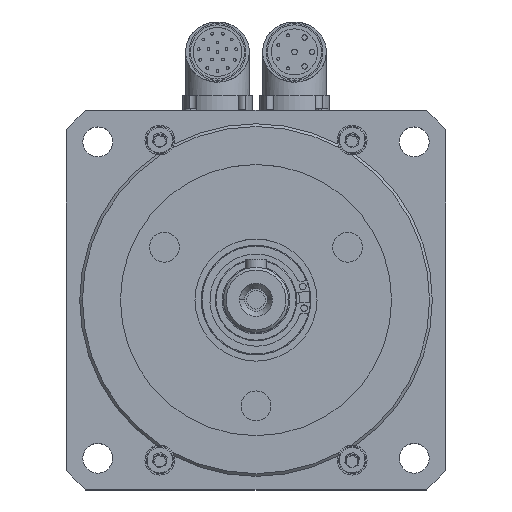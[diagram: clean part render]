
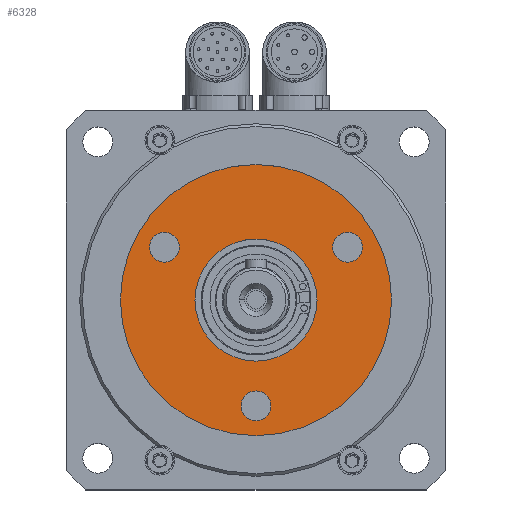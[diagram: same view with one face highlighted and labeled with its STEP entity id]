
A CAD part, top view. The second image highlights one B-rep face of the part: STEP entity #6328.
In plain terms, the highlighted planar face has unit normal (0, 0, 1).
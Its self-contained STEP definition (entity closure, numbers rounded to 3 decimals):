
#91 = CARTESIAN_POINT ( 'NONE',  ( -50., 0., 21.5 ) ) ;
#232 = VERTEX_POINT ( 'NONE', #820 ) ;
#276 = VERTEX_POINT ( 'NONE', #91 ) ;
#343 = VERTEX_POINT ( 'NONE', #764 ) ;
#357 = VERTEX_POINT ( 'NONE', #1164 ) ;
#496 = VERTEX_POINT ( 'NONE', #4168 ) ;
#558 = VERTEX_POINT ( 'NONE', #4231 ) ;
#605 = VERTEX_POINT ( 'NONE', #4322 ) ;
#632 = VERTEX_POINT ( 'NONE', #4295 ) ;
#636 = VERTEX_POINT ( 'NONE', #4291 ) ;
#652 = VERTEX_POINT ( 'NONE', #4275 ) ;
#764 = CARTESIAN_POINT ( 'NONE',  ( 22.5, 0., 21.5 ) ) ;
#820 = CARTESIAN_POINT ( 'NONE',  ( -28.275, 19.5, 21.5 ) ) ;
#1164 = CARTESIAN_POINT ( 'NONE',  ( -5.5, -39., 21.5 ) ) ;
#1205 = AXIS2_PLACEMENT_3D ( 'NONE', #3703, #3717, #3716 ) ;
#1242 = AXIS2_PLACEMENT_3D ( 'NONE', #3573, #3574, #3581 ) ;
#1273 = AXIS2_PLACEMENT_3D ( 'NONE', #6958, #6957, #6956 ) ;
#1291 = EDGE_CURVE ( 'NONE', #357, #632, #15215, .T. ) ;
#1341 = AXIS2_PLACEMENT_3D ( 'NONE', #3486, #3484, #3485 ) ;
#1367 = AXIS2_PLACEMENT_3D ( 'NONE', #3570, #3571, #3572 ) ;
#1404 = AXIS2_PLACEMENT_3D ( 'NONE', #3535, #3543, #3547 ) ;
#1491 = AXIS2_PLACEMENT_3D ( 'NONE', #3589, #3585, #3584 ) ;
#1495 = AXIS2_PLACEMENT_3D ( 'NONE', #3096, #3288, #3193 ) ;
#1620 = EDGE_CURVE ( 'NONE', #558, #605, #4931, .T. ) ;
#1628 = EDGE_CURVE ( 'NONE', #343, #636, #4922, .T. ) ;
#1639 = EDGE_CURVE ( 'NONE', #496, #276, #4905, .T. ) ;
#1640 = EDGE_CURVE ( 'NONE', #605, #558, #4904, .T. ) ;
#1651 = EDGE_CURVE ( 'NONE', #232, #652, #4887, .T. ) ;
#1670 = EDGE_CURVE ( 'NONE', #652, #232, #4857, .T. ) ;
#1676 = EDGE_CURVE ( 'NONE', #276, #496, #4850, .T. ) ;
#1692 = EDGE_CURVE ( 'NONE', #636, #343, #4826, .T. ) ;
#1733 = AXIS2_PLACEMENT_3D ( 'NONE', #3656, #3658, #3659 ) ;
#1751 = EDGE_CURVE ( 'NONE', #632, #357, #6184, .T. ) ;
#1752 = AXIS2_PLACEMENT_3D ( 'NONE', #3691, #3663, #3664 ) ;
#3096 = CARTESIAN_POINT ( 'NONE',  ( 0., -39., 21.5 ) ) ;
#3193 = DIRECTION ( 'NONE',  ( 1., 0., 0. ) ) ;
#3288 = DIRECTION ( 'NONE',  ( 0., 0., 1. ) ) ;
#3484 = DIRECTION ( 'NONE',  ( 0., 0., 1. ) ) ;
#3485 = DIRECTION ( 'NONE',  ( 1., 0., 0. ) ) ;
#3486 = CARTESIAN_POINT ( 'NONE',  ( 33.775, 19.5, 21.5 ) ) ;
#3535 = CARTESIAN_POINT ( 'NONE',  ( 0., 0., 21.5 ) ) ;
#3543 = DIRECTION ( 'NONE',  ( 0., 0., 1. ) ) ;
#3547 = DIRECTION ( 'NONE',  ( 1., 0., 0. ) ) ;
#3570 = CARTESIAN_POINT ( 'NONE',  ( 0., 0., 21.5 ) ) ;
#3571 = DIRECTION ( 'NONE',  ( 0., 0., 1. ) ) ;
#3572 = DIRECTION ( 'NONE',  ( 1., 0., 0. ) ) ;
#3573 = CARTESIAN_POINT ( 'NONE',  ( 33.775, 19.5, 21.5 ) ) ;
#3574 = DIRECTION ( 'NONE',  ( 0., 0., 1. ) ) ;
#3581 = DIRECTION ( 'NONE',  ( 1., 0., 0. ) ) ;
#3584 = DIRECTION ( 'NONE',  ( 1., 0., 0. ) ) ;
#3585 = DIRECTION ( 'NONE',  ( 0., 0., 1. ) ) ;
#3589 = CARTESIAN_POINT ( 'NONE',  ( -33.775, 19.5, 21.5 ) ) ;
#3656 = CARTESIAN_POINT ( 'NONE',  ( 0., 0., 21.5 ) ) ;
#3658 = DIRECTION ( 'NONE',  ( 0., 0., 1. ) ) ;
#3659 = DIRECTION ( 'NONE',  ( 1., 0., 0. ) ) ;
#3663 = DIRECTION ( 'NONE',  ( 0., 0., 1. ) ) ;
#3664 = DIRECTION ( 'NONE',  ( 1., 0., 0. ) ) ;
#3691 = CARTESIAN_POINT ( 'NONE',  ( -33.775, 19.5, 21.5 ) ) ;
#3703 = CARTESIAN_POINT ( 'NONE',  ( 0., 0., 21.5 ) ) ;
#3716 = DIRECTION ( 'NONE',  ( 1., 0., 0. ) ) ;
#3717 = DIRECTION ( 'NONE',  ( 0., 0., 1. ) ) ;
#4168 = CARTESIAN_POINT ( 'NONE',  ( 50., 0., 21.5 ) ) ;
#4231 = CARTESIAN_POINT ( 'NONE',  ( 28.275, 19.5, 21.5 ) ) ;
#4275 = CARTESIAN_POINT ( 'NONE',  ( -39.275, 19.5, 21.5 ) ) ;
#4291 = CARTESIAN_POINT ( 'NONE',  ( -22.5, 0., 21.5 ) ) ;
#4295 = CARTESIAN_POINT ( 'NONE',  ( 5.5, -39., 21.5 ) ) ;
#4322 = CARTESIAN_POINT ( 'NONE',  ( 39.275, 19.5, 21.5 ) ) ;
#4826 = CIRCLE ( 'NONE', #1205, 22.5 ) ;
#4850 = CIRCLE ( 'NONE', #1733, 50. ) ;
#4857 = CIRCLE ( 'NONE', #1752, 5.5 ) ;
#4887 = CIRCLE ( 'NONE', #1491, 5.5 ) ;
#4904 = CIRCLE ( 'NONE', #1242, 5.5 ) ;
#4905 = CIRCLE ( 'NONE', #1367, 50. ) ;
#4922 = CIRCLE ( 'NONE', #1404, 22.5 ) ;
#4931 = CIRCLE ( 'NONE', #1341, 5.5 ) ;
#6184 = CIRCLE ( 'NONE', #1273, 5.5 ) ;
#6328 = ADVANCED_FACE ( 'NONE', ( #12087, #11929, #12418, #12391, #12048 ), #9517, .T. ) ;
#6956 = DIRECTION ( 'NONE',  ( 1., 0., 0. ) ) ;
#6957 = DIRECTION ( 'NONE',  ( 0., 0., 1. ) ) ;
#6958 = CARTESIAN_POINT ( 'NONE',  ( 0., -39., 21.5 ) ) ;
#8335 = EDGE_LOOP ( 'NONE', ( #14028, #14128 ) ) ;
#8382 = EDGE_LOOP ( 'NONE', ( #14095, #14132 ) ) ;
#8671 = EDGE_LOOP ( 'NONE', ( #14101, #14154 ) ) ;
#8695 = EDGE_LOOP ( 'NONE', ( #14035, #14125 ) ) ;
#8698 = EDGE_LOOP ( 'NONE', ( #14029, #14104 ) ) ;
#9509 = DIRECTION ( 'NONE',  ( 1., 0., 0. ) ) ;
#9510 = DIRECTION ( 'NONE',  ( 0., 0., 1. ) ) ;
#9514 = CARTESIAN_POINT ( 'NONE',  ( 0., 50., 21.5 ) ) ;
#9517 = PLANE ( 'NONE',  #13437 ) ;
#11929 = FACE_BOUND ( 'NONE', #8671, .T. ) ;
#12048 = FACE_BOUND ( 'NONE', #8695, .T. ) ;
#12087 = FACE_BOUND ( 'NONE', #8382, .T. ) ;
#12391 = FACE_OUTER_BOUND ( 'NONE', #8698, .T. ) ;
#12418 = FACE_BOUND ( 'NONE', #8335, .T. ) ;
#13437 = AXIS2_PLACEMENT_3D ( 'NONE', #9514, #9510, #9509 ) ;
#14028 = ORIENTED_EDGE ( 'NONE', *, *, #1751, .F. ) ;
#14029 = ORIENTED_EDGE ( 'NONE', *, *, #1639, .T. ) ;
#14035 = ORIENTED_EDGE ( 'NONE', *, *, #1628, .F. ) ;
#14095 = ORIENTED_EDGE ( 'NONE', *, *, #1651, .F. ) ;
#14101 = ORIENTED_EDGE ( 'NONE', *, *, #1640, .F. ) ;
#14104 = ORIENTED_EDGE ( 'NONE', *, *, #1676, .T. ) ;
#14125 = ORIENTED_EDGE ( 'NONE', *, *, #1692, .F. ) ;
#14128 = ORIENTED_EDGE ( 'NONE', *, *, #1291, .F. ) ;
#14132 = ORIENTED_EDGE ( 'NONE', *, *, #1670, .F. ) ;
#14154 = ORIENTED_EDGE ( 'NONE', *, *, #1620, .F. ) ;
#15215 = CIRCLE ( 'NONE', #1495, 5.5 ) ;
